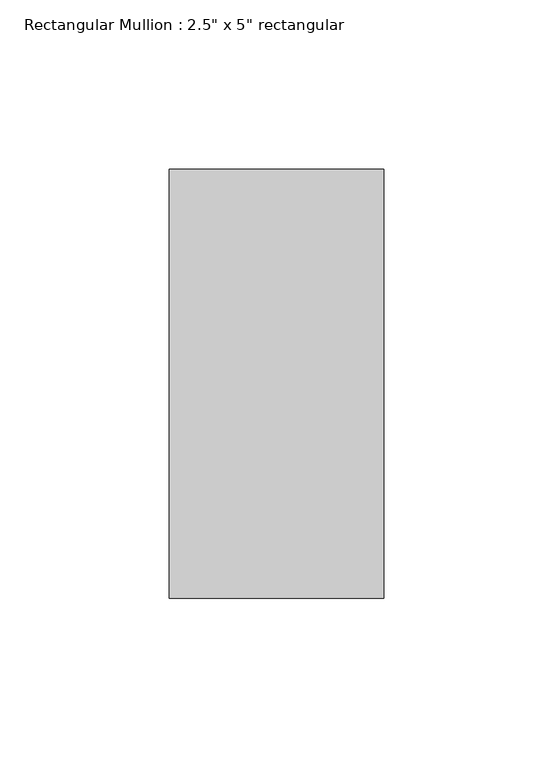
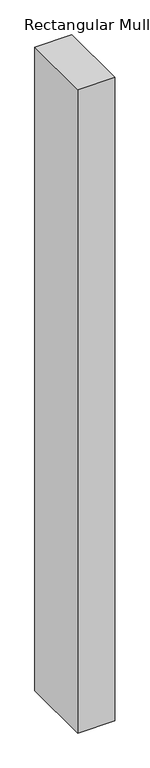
"""IFC4 building model written with IfcOpenShell, lengths in millimetres: member geometry."""

from ifc_helpers import new_model, si_unit, frame, origin, place, context, project, spatial, polyline, outline, extrude, source, transform, mapped, element, save


def member_810c9e6f(model_context):
    return source(origin(), model_context, "Body", "SweptSolid", [
        extrude(outline(polyline([(0.0, 50.8), (0.0, -76.2), (-63.5, -76.2), (-63.5, 50.8), (0.0, 50.8)])), frame((0.0, 0.0, -1167.60625), z_axis=(0.0, 0.0, 1.0), x_axis=(1.0, 0.0, 0.0)), (0.0, 0.0, 1.0), 1167.60625),
    ])


if __name__ == "__main__":
    model = new_model("IFC4")
    model_context = context("Model", 3, world=origin())
    ifc_project = project(units=[si_unit("LENGTHUNIT", "METRE", prefix="MILLI")], contexts=[model_context])
    site = spatial("IfcSite", under=ifc_project)
    building = spatial("IfcBuilding", under=site)
    placement = place(None, origin())
    member_shape = member_810c9e6f(model_context)
    element("IfcMember", 1, ObjectType="Rectangular Mullion : 2.5\" x 5\" rectangular", at=placement, inside=building, context=model_context, shape_type="MappedRepresentation", body=[
        mapped(member_shape, transform((0.0, 0.0, 0.0), x_axis=(1.0, 0.0, 0.0), y_axis=(0.0, 1.0, 0.0), z_axis=(0.0, 0.0, 1.0))),
    ])
    save(model, "model.ifc")
